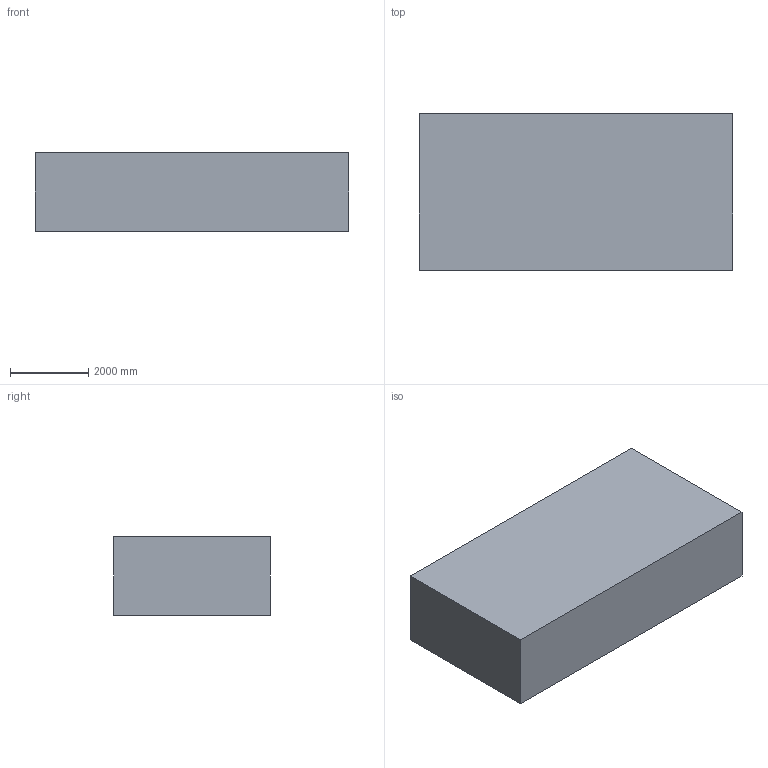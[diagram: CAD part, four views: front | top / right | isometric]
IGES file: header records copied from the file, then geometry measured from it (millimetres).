
Start section: 3D InterOp IGES (v. 2019 1.0.2), Spatial Corp. Copyright (c) 1999-2017.
Global section: file name: geo.igs; native system: Spatial Corp.; preprocessor: 3D InterOp ACIS/IGES; author: Noname; organization: Noname; date: 20200525.113108; units: millimetre
Bounding box: 8000 x 4000 x 2000 mm (x, y, z)
Surface area: 137939785.3 mm2
Topology: 2 solids, 2 shells, 31 faces, 71 edges, 46 vertices
Faces by surface type: plane 19, bspline 12
